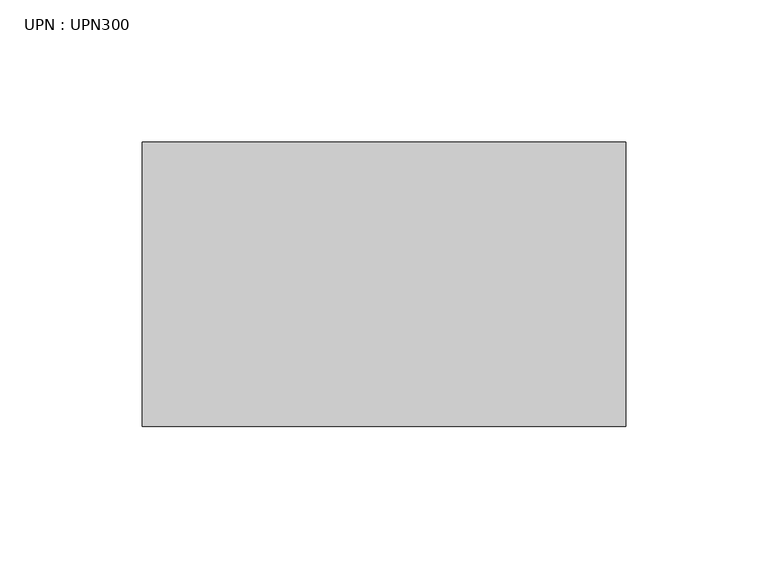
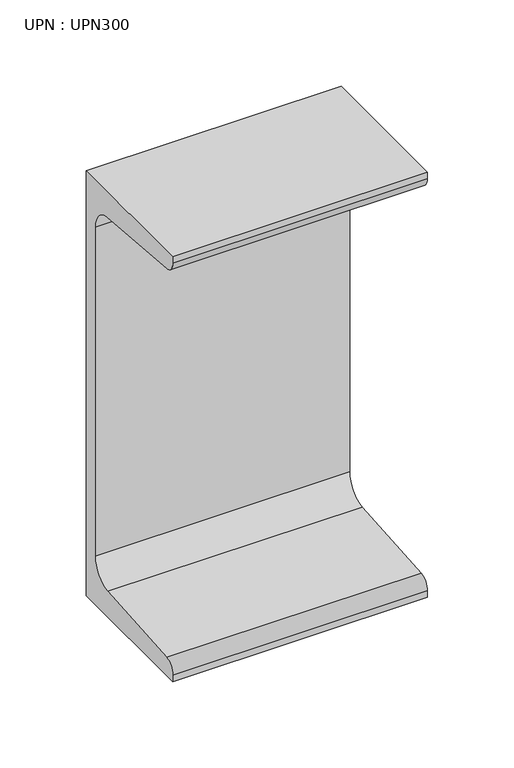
"""IFC4 building model written with IfcOpenShell, lengths in millimetres: beam geometry, UPN : UPN300."""

from ifc_helpers import new_model, si_unit, point, frame, frame_2d, origin, place, context, project, spatial, polyline, circle_curve, trimmed, segment, composite_curve, outline, extrude, source, transform, mapped, element, save


def upn_upn300_c143f453(model_context):
    return source(origin(), model_context, "Body", "SweptSolid", [
        extrude(outline(composite_curve([segment(polyline([(27.0, 150.0), (27.0, -150.0), (-73.0, -150.0), (-73.0, -145.3826224)]), True, "CONTINUOUS"), segment(trimmed(circle_curve(frame_2d((-65.0, -145.3826224)), 8.0), [point((-73.0, -145.3826224))], [point((-65.637416, -137.4080566))], False, "CARTESIAN"), True, "CONTINUOUS"), segment(polyline([(-65.637416, -137.4080566), (2.274832, -131.9797543)]), True, "CONTINUOUS"), segment(trimmed(circle_curve(frame_2d((1.0, -116.0306225)), 16.0), [point((2.274832, -131.9797543))], [point((17.0, -116.0306225))], True, "CARTESIAN"), True, "CONTINUOUS"), segment(polyline([(17.0, -116.0306225), (17.0, 116.0306225)]), True, "CONTINUOUS"), segment(trimmed(circle_curve(frame_2d((1.0, 116.0306225)), 16.0), [point((17.0, 116.0306225))], [point((2.274832, 131.9797543))], True, "CARTESIAN"), True, "CONTINUOUS"), segment(polyline([(2.274832, 131.9797543), (-65.637416, 137.4080566)]), True, "CONTINUOUS"), segment(trimmed(circle_curve(frame_2d((-65.0, 145.3826224)), 8.0), [point((-65.637416, 137.4080566))], [point((-73.0, 145.3826224))], False, "CARTESIAN"), True, "CONTINUOUS"), segment(polyline([(-73.0, 145.3826224), (-73.0, 150.0), (27.0, 150.0)]), True, "CONTINUOUS")], self_intersect=False)), frame((-129.6, 0.0, 0.0), z_axis=(1.0, 0.0, 0.0), x_axis=(0.0, 1.0, 0.0)), (0.0, 0.0, 1.0), 170.0),
    ])


if __name__ == "__main__":
    model = new_model("IFC4")
    model_context = context("Model", 3, world=origin())
    ifc_project = project(units=[si_unit("LENGTHUNIT", "METRE", prefix="MILLI")], contexts=[model_context])
    site = spatial("IfcSite", under=ifc_project)
    building = spatial("IfcBuilding", under=site)
    placement = place(None, origin())
    upn_upn300_shape = upn_upn300_c143f453(model_context)
    element("IfcBeam", 1, ObjectType="UPN : UPN300", at=placement, inside=building, context=model_context, shape_type="MappedRepresentation", body=[
        mapped(upn_upn300_shape, transform((0.0, 0.0, 0.0), x_axis=(1.0, 0.0, 0.0), y_axis=(0.0, 1.0, 0.0), z_axis=(0.0, 0.0, 1.0))),
    ])
    save(model, "model.ifc")
